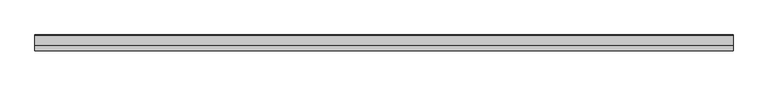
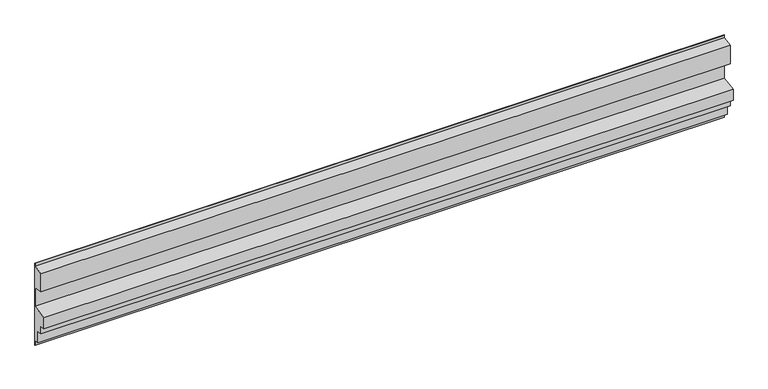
"""IFC4 building model written with IfcOpenShell, lengths in millimetres: plate geometry, ATELIERS 3S_NEW YORK MANHATTAN 780_HORIZONTAL : AZURO."""

import ifcopenshell
import ifcopenshell.guid

model = None  # the IFC model being written
_history = None  # IfcOwnerHistory: only IFC2X3 demands one
_inside = {}  # id of a spatial element -> (the spatial element, [elements in it])
_under = {}  # id of a project, library or spatial element -> (it, [spatial elements below it])
_declared = {}  # id of a project -> (the project, [libraries it declares])
_typed = {}  # id of a type object -> (the type object, [elements of that type])
_made_of = {}  # id of a material, layer set ... -> (it, [elements and type objects made of it])


def new_model(schema):
    """Start an empty IFC model of exactly this schema.

    Asked for "IFC4X3", IfcOpenShell would pick the latest addendum, in which some entities
    have other attributes; the version numbers below select the first issue.
    IFC2X3 requires an IfcOwnerHistory on every rooted entity: one is made here for all.
    """
    global model, _history
    if schema == "IFC4X3":
        model = ifcopenshell.file(schema_version=(4, 3, 0, 0))
    else:
        model = ifcopenshell.file(schema=schema)
    _inside.clear()
    _under.clear()
    _declared.clear()
    _typed.clear()
    _made_of.clear()
    _history = None
    if model.schema == "IFC2X3":
        org = make("IfcOrganization", Name="unknown")
        user = make(
            "IfcPersonAndOrganization",
            ThePerson=make("IfcPerson", FamilyName="unknown"),
            TheOrganization=org,
        )
        app = make(
            "IfcApplication",
            ApplicationDeveloper=org,
            Version="unknown",
            ApplicationFullName="unknown",
            ApplicationIdentifier="unknown",
        )
        _history = make(
            "IfcOwnerHistory",
            OwningUser=user,
            OwningApplication=app,
            ChangeAction="ADDED",
            CreationDate=0,
        )
    return model


def make(cls, **values):
    """One entity of the class cls with the attributes given. An attribute that is None is left unset."""
    return model.create_entity(
        cls, **{name: value for name, value in values.items() if value is not None}
    )


def rooted(cls, **values):
    """An entity with a GlobalId (a new one), such as an element, a storey or a relation."""
    return make(cls, GlobalId=ifcopenshell.guid.new(), OwnerHistory=_history, **values)


def si_unit(unit_type, name, prefix=None):
    """IfcSIUnit, for example si_unit("LENGTHUNIT", "METRE", prefix="MILLI")."""
    return make("IfcSIUnit", UnitType=unit_type, Prefix=prefix, Name=name)


def assignment(units):
    """IfcUnitAssignment: the units of a project."""
    return None if units is None else make("IfcUnitAssignment", Units=units)


def point(xyz):
    """IfcCartesianPoint."""
    return None if xyz is None else make("IfcCartesianPoint", Coordinates=xyz)


def direction(xyz):
    """IfcDirection."""
    return None if xyz is None else make("IfcDirection", DirectionRatios=xyz)


def frame(location, z_axis=None, x_axis=None):
    """IfcAxis2Placement3D, a coordinate frame: its origin and axes. An axis left out is left unset."""
    return make(
        "IfcAxis2Placement3D",
        Location=point(location),
        Axis=direction(z_axis),
        RefDirection=direction(x_axis),
    )


def origin():
    """The frame at (0, 0, 0) with its axes left unset."""
    return frame((0.0, 0.0, 0.0))


def place(relative_to, where):
    """IfcLocalPlacement: puts the frame where relative to a parent placement (None: the world)."""
    return make(
        "IfcLocalPlacement", PlacementRelTo=relative_to, RelativePlacement=where
    )


def context(
    kind, dimensions, precision=None, world=None, true_north=None, identifier=None
):
    """IfcGeometricRepresentationContext, for example the 3D "Model" context."""
    return make(
        "IfcGeometricRepresentationContext",
        ContextIdentifier=identifier,
        ContextType=kind,
        CoordinateSpaceDimension=dimensions,
        Precision=precision,
        WorldCoordinateSystem=world,
        TrueNorth=true_north,
    )


def project(units=None, contexts=None):
    """IfcProject with its units and contexts."""
    return rooted(
        "IfcProject",
        Name="project",
        RepresentationContexts=contexts,
        UnitsInContext=assignment(units),
    )


def spatial(cls, under=None, at=None, **own):
    """A site, building, storey or space (cls), placed at a placement, below another one or the project."""
    s = rooted(cls, ObjectPlacement=at, **own)
    if under is not None:
        _under.setdefault(under.id(), (under, []))[1].append(s)
    return s


def polyline(points):
    """IfcPolyline through the points."""
    return make("IfcPolyline", Points=[point(p) for p in points])


def outline(outer, holes=None, kind="AREA"):
    """IfcArbitraryClosedProfileDef: a profile drawn as a closed curve; with holes, ...WithVoids."""
    if holes is None:
        return make("IfcArbitraryClosedProfileDef", ProfileType=kind, OuterCurve=outer)
    return make(
        "IfcArbitraryProfileDefWithVoids",
        ProfileType=kind,
        OuterCurve=outer,
        InnerCurves=holes,
    )


def extrude(swept, where, along, depth):
    """IfcExtrudedAreaSolid: the profile swept, set in the frame where, extruded along a direction by depth."""
    return make(
        "IfcExtrudedAreaSolid",
        SweptArea=swept,
        Position=where,
        ExtrudedDirection=direction(along),
        Depth=depth,
    )


def shape(context_of_items, identifier, shape_type, items):
    """IfcShapeRepresentation: the items that make up one representation, for example the "Body"."""
    return make(
        "IfcShapeRepresentation",
        ContextOfItems=context_of_items,
        RepresentationIdentifier=identifier,
        RepresentationType=shape_type,
        Items=items,
    )


def source(mapping_origin, context_of_items, identifier, shape_type, items):
    """IfcRepresentationMap: a shape defined once, which mapped items show again and again."""
    return make(
        "IfcRepresentationMap",
        MappingOrigin=mapping_origin,
        MappedRepresentation=shape(context_of_items, identifier, shape_type, items),
    )


def transform(
    local_origin,
    x_axis=None,
    y_axis=None,
    z_axis=None,
    scale=None,
    scale2=None,
    scale3=None,
    uniform=True,
):
    """IfcCartesianTransformationOperator3D, or its non-uniform kind. x_axis, y_axis, z_axis: its Axis1, 2, 3."""
    if uniform:
        return make(
            "IfcCartesianTransformationOperator3D",
            Axis1=direction(x_axis),
            Axis2=direction(y_axis),
            LocalOrigin=point(local_origin),
            Scale=scale,
            Axis3=direction(z_axis),
        )
    return make(
        "IfcCartesianTransformationOperator3DnonUniform",
        Axis1=direction(x_axis),
        Axis2=direction(y_axis),
        LocalOrigin=point(local_origin),
        Scale=scale,
        Axis3=direction(z_axis),
        Scale2=scale2,
        Scale3=scale3,
    )


def mapped(mapping_source, mapping_target):
    """IfcMappedItem: shows the shape of a source again, moved by a transform."""
    return make(
        "IfcMappedItem", MappingSource=mapping_source, MappingTarget=mapping_target
    )


def made_of(thing, what):
    """Note that an element or type object is made of a material, layer set ...; save() writes the relation."""
    if what is not None:
        _made_of.setdefault(what.id(), (what, []))[1].append(thing)
    return thing


def element(
    cls,
    number,
    at=None,
    inside=None,
    cuts=None,
    type_object=None,
    material=None,
    context=None,
    identifier="Body",
    shape_type=None,
    held_by="IfcProductDefinitionShape",
    body=None,
    shapes=None,
    **own,
):
    """One element of the class cls, such as IfcWall. Its Tag is "e" and its number.

    at: its placement. inside: the storey or other place that contains it. cuts: it is an
    opening in that element (IfcRelVoidsElement). A single representation is given by context,
    identifier, shape_type and body (its items); several are given by shapes. held_by: the class
    of the entity that holds the representations. save() writes the other relations.
    """
    e = rooted(cls, Tag="e%d" % number, ObjectPlacement=at, **own)
    if body is not None:
        shapes = [shape(context, identifier, shape_type, body)]
    if shapes is not None:
        e.Representation = make(held_by, Representations=shapes)
    if inside is not None:
        _inside.setdefault(inside.id(), (inside, []))[1].append(e)
    if cuts is not None:
        rooted(
            "IfcRelVoidsElement", RelatingBuildingElement=cuts, RelatedOpeningElement=e
        )
    if type_object is not None:
        _typed.setdefault(type_object.id(), (type_object, []))[1].append(e)
    return made_of(e, material)


def aggregate(whole, parts):
    """IfcRelAggregates: a whole, such as a stair, and the parts it consists of."""
    return rooted("IfcRelAggregates", RelatingObject=whole, RelatedObjects=parts)


def save(model, path):
    """Write the relations noted so far, then the file.

    IfcRelAggregates (storeys below a building ...), IfcRelContainedInSpatialStructure (elements
    in a storey), IfcRelDefinesByType, IfcRelAssociatesMaterial and IfcRelDeclares: one each for
    every whole, place, type object, material and project.
    """
    for whole, parts in _under.values():
        aggregate(whole, parts)
    for where, things in _inside.values():
        rooted(
            "IfcRelContainedInSpatialStructure",
            RelatedElements=things,
            RelatingStructure=where,
        )
    for kind, things in _typed.values():
        rooted("IfcRelDefinesByType", RelatedObjects=things, RelatingType=kind)
    for what, things in _made_of.values():
        rooted("IfcRelAssociatesMaterial", RelatedObjects=things, RelatingMaterial=what)
    for by, libraries in _declared.values():
        rooted("IfcRelDeclares", RelatingContext=by, RelatedDefinitions=libraries)
    model.write(path)


def plate_cfa7d90c(model_context):
    return source(origin(), model_context, "Body", "SweptSolid", [
        extrude(outline(polyline([(-0.75, 328.5800585), (-0.75, 340.0), (0.0, 340.0), (0.0, 0.0), (-0.8, 0.0), (-0.8, 19.6941775), (-20.7501589, 23.211221), (-20.7501589, 68.2118488), (-40.7500015, 71.7384174), (-40.7500015, 101.7384166), (-60.7500001, 105.2649565), (-60.7500001, 150.8942812), (-0.75, 161.4739), (-0.75, 238.8445753), (-40.75, 245.8976546), (-40.75, 321.5269793), (-0.75, 328.5800585)])), frame((-1352.0, 0.0, 0.0), z_axis=(1.0, 0.0, 0.0), x_axis=(0.0, 1.0, 0.0)), (0.0, 0.0, 1.0), 2704.0),
    ])


if __name__ == "__main__":
    model = new_model("IFC4")
    model_context = context("Model", 3, world=origin())
    ifc_project = project(units=[si_unit("LENGTHUNIT", "METRE", prefix="MILLI")], contexts=[model_context])
    site = spatial("IfcSite", under=ifc_project)
    building = spatial("IfcBuilding", under=site)
    placement = place(None, origin())
    plate_shape = plate_cfa7d90c(model_context)
    element("IfcPlate", 1, ObjectType="ATELIERS 3S_NEW YORK MANHATTAN 780_HORIZONTAL : AZURO", at=placement, inside=building, context=model_context, shape_type="MappedRepresentation", body=[
        mapped(plate_shape, transform((0.0, 0.0, 0.0), x_axis=(1.0, 0.0, 0.0), y_axis=(0.0, 1.0, 0.0), z_axis=(0.0, 0.0, 1.0))),
    ])
    save(model, "model.ifc")
